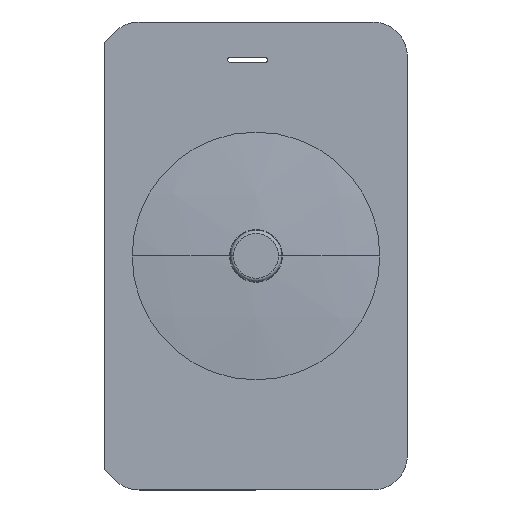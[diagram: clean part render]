
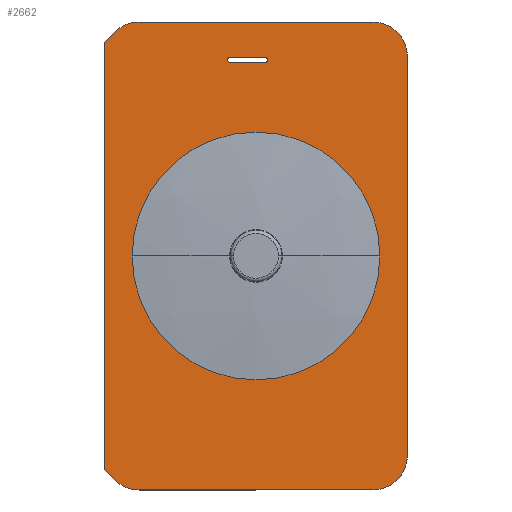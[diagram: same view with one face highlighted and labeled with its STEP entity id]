
A CAD part, top view. The second image highlights one B-rep face of the part: STEP entity #2662.
In plain terms, the highlighted planar face has unit normal (0, 0, 1).
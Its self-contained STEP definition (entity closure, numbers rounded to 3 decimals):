
#159 = CARTESIAN_POINT ( 'NONE',  ( -0.819, 5.7, 0.053 ) ) ;
#168 = CARTESIAN_POINT ( 'NONE',  ( -3.6, 0., 0.053 ) ) ;
#169 = CARTESIAN_POINT ( 'NONE',  ( -0.744, 5.775, 0.053 ) ) ;
#172 = CARTESIAN_POINT ( 'NONE',  ( 3.6, 0., 0.053 ) ) ;
#173 = CARTESIAN_POINT ( 'NONE',  ( -0.744, 5.625, 0.053 ) ) ;
#177 = CARTESIAN_POINT ( 'NONE',  ( 0.256, 5.775, 0.053 ) ) ;
#179 = CARTESIAN_POINT ( 'NONE',  ( 0.256, 5.625, 0.053 ) ) ;
#180 = CARTESIAN_POINT ( 'NONE',  ( -4.4, -6.214, 0.053 ) ) ;
#182 = CARTESIAN_POINT ( 'NONE',  ( -4.107, -6.507, 0.053 ) ) ;
#183 = CARTESIAN_POINT ( 'NONE',  ( -3.4, -6.8, 0.053 ) ) ;
#184 = CARTESIAN_POINT ( 'NONE',  ( 3.4, -6.8, 0.053 ) ) ;
#270 = CIRCLE ( 'NONE', #1821, 3.6 ) ;
#272 = LINE ( 'NONE', #927, #277 ) ;
#274 = LINE ( 'NONE', #926, #279 ) ;
#277 = VECTOR ( 'NONE', #931, 1000. ) ;
#279 = VECTOR ( 'NONE', #933, 1000. ) ;
#287 = CIRCLE ( 'NONE', #1826, 0.075 ) ;
#316 = CIRCLE ( 'NONE', #1833, 0.075 ) ;
#318 = CIRCLE ( 'NONE', #1834, 0.075 ) ;
#328 = LINE ( 'NONE', #1006, #330 ) ;
#330 = VECTOR ( 'NONE', #1007, 1000. ) ;
#339 = LINE ( 'NONE', #1031, #345 ) ;
#343 = CIRCLE ( 'NONE', #1841, 1. ) ;
#345 = VECTOR ( 'NONE', #1029, 1000. ) ;
#348 = CIRCLE ( 'NONE', #1842, 1. ) ;
#349 = LINE ( 'NONE', #1037, #351 ) ;
#351 = VECTOR ( 'NONE', #1038, 1000. ) ;
#362 = CIRCLE ( 'NONE', #1843, 1. ) ;
#367 = LINE ( 'NONE', #1073, #376 ) ;
#370 = CIRCLE ( 'NONE', #1845, 1. ) ;
#375 = CIRCLE ( 'NONE', #1846, 3.6 ) ;
#376 = VECTOR ( 'NONE', #1077, 1000. ) ;
#378 = LINE ( 'NONE', #1078, #380 ) ;
#380 = VECTOR ( 'NONE', #1079, 1000. ) ;
#388 = LINE ( 'NONE', #1097, #391 ) ;
#391 = VECTOR ( 'NONE', #1098, 1000. ) ;
#689 = CARTESIAN_POINT ( 'NONE',  ( 4.4, 5.8, 0.053 ) ) ;
#690 = CARTESIAN_POINT ( 'NONE',  ( 3.4, 6.8, 0.053 ) ) ;
#691 = CARTESIAN_POINT ( 'NONE',  ( -3.4, 6.8, 0.053 ) ) ;
#692 = CARTESIAN_POINT ( 'NONE',  ( -4.107, 6.507, 0.053 ) ) ;
#923 = CARTESIAN_POINT ( 'NONE',  ( 0., 0., 0.053 ) ) ;
#924 = DIRECTION ( 'NONE',  ( 0., 0., 1. ) ) ;
#925 = DIRECTION ( 'NONE',  ( 1., 0., 0. ) ) ;
#926 = CARTESIAN_POINT ( 'NONE',  ( -0.744, 5.775, 0.053 ) ) ;
#927 = CARTESIAN_POINT ( 'NONE',  ( -0.744, 5.625, 0.053 ) ) ;
#931 = DIRECTION ( 'NONE',  ( -1., 0., 0. ) ) ;
#933 = DIRECTION ( 'NONE',  ( 1., 0., 0. ) ) ;
#950 = CARTESIAN_POINT ( 'NONE',  ( -0.744, 5.7, 0.053 ) ) ;
#951 = DIRECTION ( 'NONE',  ( 0., 0., -1. ) ) ;
#952 = DIRECTION ( 'NONE',  ( -1., 0., 0. ) ) ;
#993 = CARTESIAN_POINT ( 'NONE',  ( -0.744, 5.7, 0.053 ) ) ;
#994 = DIRECTION ( 'NONE',  ( 0., 0., -1. ) ) ;
#995 = DIRECTION ( 'NONE',  ( -1., 0., 0. ) ) ;
#997 = CARTESIAN_POINT ( 'NONE',  ( 0.256, 5.7, 0.053 ) ) ;
#998 = DIRECTION ( 'NONE',  ( 0., 0., -1. ) ) ;
#999 = DIRECTION ( 'NONE',  ( -1., 0., 0. ) ) ;
#1006 = CARTESIAN_POINT ( 'NONE',  ( 3.4, 6.8, 0.053 ) ) ;
#1007 = DIRECTION ( 'NONE',  ( -1., 0., 0. ) ) ;
#1029 = DIRECTION ( 'NONE',  ( 1., 0., 0. ) ) ;
#1031 = CARTESIAN_POINT ( 'NONE',  ( -3.4, -6.8, 0.053 ) ) ;
#1037 = CARTESIAN_POINT ( 'NONE',  ( -4.4, 6.214, 0.053 ) ) ;
#1038 = DIRECTION ( 'NONE',  ( 0., -1., 0. ) ) ;
#1039 = CARTESIAN_POINT ( 'NONE',  ( -3.4, 5.8, 0.053 ) ) ;
#1040 = DIRECTION ( 'NONE',  ( 0., 0., 1. ) ) ;
#1041 = DIRECTION ( 'NONE',  ( 1., 0., 0. ) ) ;
#1044 = CARTESIAN_POINT ( 'NONE',  ( -3.4, -5.8, 0.053 ) ) ;
#1045 = DIRECTION ( 'NONE',  ( 0., 0., 1. ) ) ;
#1046 = DIRECTION ( 'NONE',  ( 1., 0., 0. ) ) ;
#1064 = CARTESIAN_POINT ( 'NONE',  ( 3.4, 5.8, 0.053 ) ) ;
#1065 = DIRECTION ( 'NONE',  ( 0., 0., 1. ) ) ;
#1066 = DIRECTION ( 'NONE',  ( 1., 0., 0. ) ) ;
#1073 = CARTESIAN_POINT ( 'NONE',  ( -4.107, 6.507, 0.053 ) ) ;
#1074 = CARTESIAN_POINT ( 'NONE',  ( 3.4, -5.8, 0.053 ) ) ;
#1075 = DIRECTION ( 'NONE',  ( 0., 0., 1. ) ) ;
#1076 = DIRECTION ( 'NONE',  ( 1., 0., 0. ) ) ;
#1077 = DIRECTION ( 'NONE',  ( -0.707, -0.707, 0. ) ) ;
#1078 = CARTESIAN_POINT ( 'NONE',  ( -4.4, -6.214, 0.053 ) ) ;
#1079 = DIRECTION ( 'NONE',  ( 0.707, -0.707, 0. ) ) ;
#1080 = CARTESIAN_POINT ( 'NONE',  ( 0., 0., 0.053 ) ) ;
#1081 = DIRECTION ( 'NONE',  ( 0., 0., 1. ) ) ;
#1082 = DIRECTION ( 'NONE',  ( 1., 0., 0. ) ) ;
#1097 = CARTESIAN_POINT ( 'NONE',  ( 4.4, -5.8, 0.053 ) ) ;
#1098 = DIRECTION ( 'NONE',  ( 0., 1., 0. ) ) ;
#1611 = CARTESIAN_POINT ( 'NONE',  ( -4.4, 6.214, 0.053 ) ) ;
#1756 = CARTESIAN_POINT ( 'NONE',  ( 4.4, -5.8, 0.053 ) ) ;
#1821 = AXIS2_PLACEMENT_3D ( 'NONE', #923, #924, #925 ) ;
#1826 = AXIS2_PLACEMENT_3D ( 'NONE', #950, #951, #952 ) ;
#1833 = AXIS2_PLACEMENT_3D ( 'NONE', #993, #994, #995 ) ;
#1834 = AXIS2_PLACEMENT_3D ( 'NONE', #997, #998, #999 ) ;
#1841 = AXIS2_PLACEMENT_3D ( 'NONE', #1039, #1040, #1041 ) ;
#1842 = AXIS2_PLACEMENT_3D ( 'NONE', #1044, #1045, #1046 ) ;
#1843 = AXIS2_PLACEMENT_3D ( 'NONE', #1064, #1065, #1066 ) ;
#1845 = AXIS2_PLACEMENT_3D ( 'NONE', #1074, #1075, #1076 ) ;
#1846 = AXIS2_PLACEMENT_3D ( 'NONE', #1080, #1081, #1082 ) ;
#2275 = EDGE_LOOP ( 'NONE', ( #3803, #3802, #3753, #3810, #3796, #3779, #3809, #3801, #3800, #3781 ) ) ;
#2301 = EDGE_LOOP ( 'NONE', ( #3812, #3770, #3751, #3807, #3793 ) ) ;
#2396 = VERTEX_POINT ( 'NONE', #1611 ) ;
#2480 = EDGE_LOOP ( 'NONE', ( #3797, #3769 ) ) ;
#2662 = ADVANCED_FACE ( 'NONE', ( #4578, #4588, #4584 ), #5308, .T. ) ;
#2991 = VERTEX_POINT ( 'NONE', #168 ) ;
#2993 = VERTEX_POINT ( 'NONE', #169 ) ;
#2994 = VERTEX_POINT ( 'NONE', #159 ) ;
#2997 = VERTEX_POINT ( 'NONE', #172 ) ;
#2998 = VERTEX_POINT ( 'NONE', #173 ) ;
#3002 = VERTEX_POINT ( 'NONE', #177 ) ;
#3004 = VERTEX_POINT ( 'NONE', #179 ) ;
#3005 = VERTEX_POINT ( 'NONE', #180 ) ;
#3007 = VERTEX_POINT ( 'NONE', #182 ) ;
#3008 = VERTEX_POINT ( 'NONE', #183 ) ;
#3009 = VERTEX_POINT ( 'NONE', #184 ) ;
#3010 = VERTEX_POINT ( 'NONE', #1756 ) ;
#3011 = VERTEX_POINT ( 'NONE', #689 ) ;
#3012 = VERTEX_POINT ( 'NONE', #690 ) ;
#3013 = VERTEX_POINT ( 'NONE', #691 ) ;
#3014 = VERTEX_POINT ( 'NONE', #692 ) ;
#3751 = ORIENTED_EDGE ( 'NONE', *, *, #4168, .T. ) ;
#3753 = ORIENTED_EDGE ( 'NONE', *, *, #4213, .T. ) ;
#3769 = ORIENTED_EDGE ( 'NONE', *, *, #4229, .F. ) ;
#3770 = ORIENTED_EDGE ( 'NONE', *, *, #4175, .T. ) ;
#3779 = ORIENTED_EDGE ( 'NONE', *, *, #4237, .T. ) ;
#3781 = ORIENTED_EDGE ( 'NONE', *, *, #4228, .T. ) ;
#3793 = ORIENTED_EDGE ( 'NONE', *, *, #4167, .T. ) ;
#3796 = ORIENTED_EDGE ( 'NONE', *, *, #4226, .T. ) ;
#3797 = ORIENTED_EDGE ( 'NONE', *, *, #4164, .F. ) ;
#3800 = ORIENTED_EDGE ( 'NONE', *, *, #4212, .T. ) ;
#3801 = ORIENTED_EDGE ( 'NONE', *, *, #4201, .T. ) ;
#3802 = ORIENTED_EDGE ( 'NONE', *, *, #4231, .T. ) ;
#3803 = ORIENTED_EDGE ( 'NONE', *, *, #4214, .T. ) ;
#3807 = ORIENTED_EDGE ( 'NONE', *, *, #4194, .T. ) ;
#3809 = ORIENTED_EDGE ( 'NONE', *, *, #4222, .T. ) ;
#3810 = ORIENTED_EDGE ( 'NONE', *, *, #4210, .T. ) ;
#3812 = ORIENTED_EDGE ( 'NONE', *, *, #4193, .T. ) ;
#4164 = EDGE_CURVE ( 'NONE', #2991, #2997, #270, .T. ) ;
#4167 = EDGE_CURVE ( 'NONE', #3004, #2998, #272, .T. ) ;
#4168 = EDGE_CURVE ( 'NONE', #2993, #3002, #274, .T. ) ;
#4175 = EDGE_CURVE ( 'NONE', #2994, #2993, #287, .T. ) ;
#4193 = EDGE_CURVE ( 'NONE', #2998, #2994, #316, .T. ) ;
#4194 = EDGE_CURVE ( 'NONE', #3002, #3004, #318, .T. ) ;
#4201 = EDGE_CURVE ( 'NONE', #3012, #3013, #328, .T. ) ;
#4210 = EDGE_CURVE ( 'NONE', #3008, #3009, #339, .T. ) ;
#4212 = EDGE_CURVE ( 'NONE', #3013, #3014, #343, .T. ) ;
#4213 = EDGE_CURVE ( 'NONE', #3007, #3008, #348, .T. ) ;
#4214 = EDGE_CURVE ( 'NONE', #2396, #3005, #349, .T. ) ;
#4222 = EDGE_CURVE ( 'NONE', #3011, #3012, #362, .T. ) ;
#4226 = EDGE_CURVE ( 'NONE', #3009, #3010, #370, .T. ) ;
#4228 = EDGE_CURVE ( 'NONE', #3014, #2396, #367, .T. ) ;
#4229 = EDGE_CURVE ( 'NONE', #2997, #2991, #375, .T. ) ;
#4231 = EDGE_CURVE ( 'NONE', #3005, #3007, #378, .T. ) ;
#4237 = EDGE_CURVE ( 'NONE', #3010, #3011, #388, .T. ) ;
#4578 = FACE_BOUND ( 'NONE', #2301, .T. ) ;
#4584 = FACE_BOUND ( 'NONE', #2480, .T. ) ;
#4588 = FACE_OUTER_BOUND ( 'NONE', #2275, .T. ) ;
#5026 = AXIS2_PLACEMENT_3D ( 'NONE', #5306, #5304, #5310 ) ;
#5304 = DIRECTION ( 'NONE',  ( 0., 0., 1. ) ) ;
#5306 = CARTESIAN_POINT ( 'NONE',  ( -3.4, -5.8, 0.053 ) ) ;
#5308 = PLANE ( 'NONE',  #5026 ) ;
#5310 = DIRECTION ( 'NONE',  ( 1., 0., 0. ) ) ;
